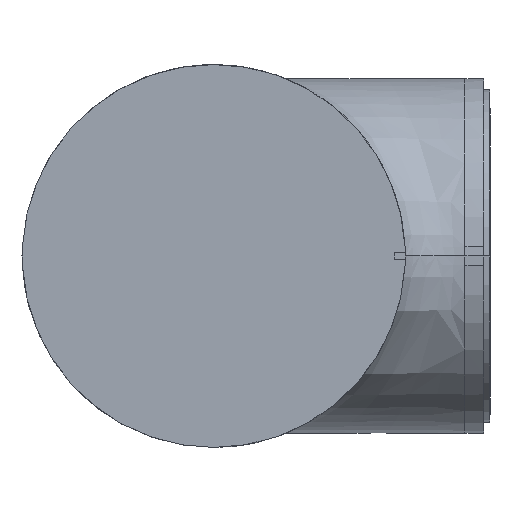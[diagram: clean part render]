
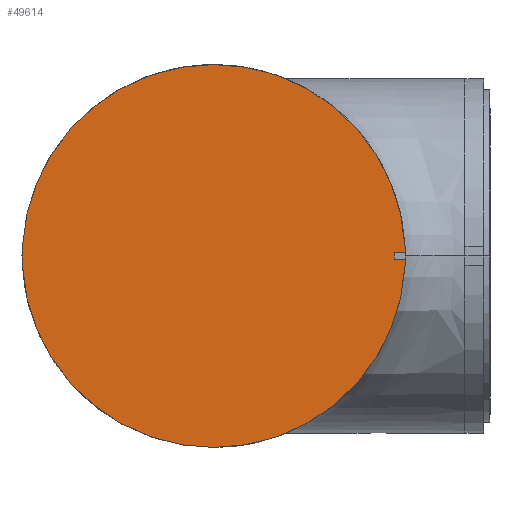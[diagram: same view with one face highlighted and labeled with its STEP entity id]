
A CAD part, left-side view. The second image highlights one B-rep face of the part: STEP entity #49614.
In plain terms, the highlighted planar face has unit normal (-1, 0, 0).
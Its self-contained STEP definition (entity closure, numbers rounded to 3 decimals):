
#40 = AXIS2_PLACEMENT_3D ( 'NONE', #52307, #5696, #39732 ) ;
#142 = CARTESIAN_POINT ( 'NONE',  ( 401., 121.016, 1019.308 ) ) ;
#281 = DIRECTION ( 'NONE',  ( 1., 0., 0. ) ) ;
#1000 = AXIS2_PLACEMENT_3D ( 'NONE', #42832, #12993, #16050 ) ;
#1996 = DIRECTION ( 'NONE',  ( 0., -0.052, 0.999 ) ) ;
#2689 = CIRCLE ( 'NONE', #22296, 61. ) ;
#4376 = EDGE_CURVE ( 'NONE', #53011, #49668, #45885, .T. ) ;
#4714 = ORIENTED_EDGE ( 'NONE', *, *, #11195, .F. ) ;
#5334 = AXIS2_PLACEMENT_3D ( 'NONE', #36969, #11323, #15773 ) ;
#5696 = DIRECTION ( 'NONE',  ( -1., 0., 0. ) ) ;
#5845 = ORIENTED_EDGE ( 'NONE', *, *, #20890, .F. ) ;
#6193 = LINE ( 'NONE', #31847, #43682 ) ;
#6566 = LINE ( 'NONE', #7370, #13383 ) ;
#6661 = VERTEX_POINT ( 'NONE', #40063 ) ;
#7370 = CARTESIAN_POINT ( 'NONE',  ( 401., 8.1, 1023.5 ) ) ;
#8954 = DIRECTION ( 'NONE',  ( 0., 0., 1. ) ) ;
#8957 = LINE ( 'NONE', #9789, #18030 ) ;
#9066 = CARTESIAN_POINT ( 'NONE',  ( 401., 121.184, 1022.5 ) ) ;
#9482 = ORIENTED_EDGE ( 'NONE', *, *, #51067, .F. ) ;
#9622 = VERTEX_POINT ( 'NONE', #9066 ) ;
#9789 = CARTESIAN_POINT ( 'NONE',  ( 401., -0.984, 1022.5 ) ) ;
#11133 = EDGE_CURVE ( 'NONE', #42020, #15889, #42868, .T. ) ;
#11195 = EDGE_CURVE ( 'NONE', #49668, #42020, #33063, .T. ) ;
#11299 = ORIENTED_EDGE ( 'NONE', *, *, #44054, .F. ) ;
#11323 = DIRECTION ( 'NONE',  ( -1., 0., 0. ) ) ;
#12452 = CIRCLE ( 'NONE', #5334, 57.5 ) ;
#12993 = DIRECTION ( 'NONE',  ( 1., 0., 0. ) ) ;
#13383 = VECTOR ( 'NONE', #23579, 1000. ) ;
#14889 = FACE_OUTER_BOUND ( 'NONE', #47224, .T. ) ;
#15320 = CARTESIAN_POINT ( 'NONE',  ( 401., -0.931, 1023.5 ) ) ;
#15773 = DIRECTION ( 'NONE',  ( 0., 1., 0. ) ) ;
#15889 = VERTEX_POINT ( 'NONE', #40914 ) ;
#16050 = DIRECTION ( 'NONE',  ( 0., 0., 1. ) ) ;
#17161 = DIRECTION ( 'NONE',  ( 0., 0.052, -0.999 ) ) ;
#17423 = CARTESIAN_POINT ( 'NONE',  ( 401., -0.816, 1025.692 ) ) ;
#18030 = VECTOR ( 'NONE', #51934, 1000. ) ;
#18718 = ORIENTED_EDGE ( 'NONE', *, *, #42489, .F. ) ;
#20684 = CIRCLE ( 'NONE', #21576, 61. ) ;
#20890 = EDGE_CURVE ( 'NONE', #27307, #51520, #8957, .T. ) ;
#21576 = AXIS2_PLACEMENT_3D ( 'NONE', #46026, #33449, #50490 ) ;
#22296 = AXIS2_PLACEMENT_3D ( 'NONE', #38245, #281, #8954 ) ;
#22906 = ORIENTED_EDGE ( 'NONE', *, *, #47825, .F. ) ;
#23110 = VERTEX_POINT ( 'NONE', #36608 ) ;
#23416 = ORIENTED_EDGE ( 'NONE', *, *, #27242, .T. ) ;
#23579 = DIRECTION ( 'NONE',  ( 0., 1., 0. ) ) ;
#23915 = VERTEX_POINT ( 'NONE', #29891 ) ;
#24244 = EDGE_CURVE ( 'NONE', #15889, #23110, #20684, .T. ) ;
#24465 = VECTOR ( 'NONE', #34151, 1000. ) ;
#27242 = EDGE_CURVE ( 'NONE', #53011, #23915, #12452, .T. ) ;
#27307 = VERTEX_POINT ( 'NONE', #17423 ) ;
#27725 = VECTOR ( 'NONE', #17161, 1000. ) ;
#28288 = CARTESIAN_POINT ( 'NONE',  ( 401., 2.609, 1021.5 ) ) ;
#28566 = VECTOR ( 'NONE', #48137, 1000. ) ;
#29837 = ORIENTED_EDGE ( 'NONE', *, *, #24244, .F. ) ;
#29891 = CARTESIAN_POINT ( 'NONE',  ( 401., 2.609, 1023.5 ) ) ;
#31847 = CARTESIAN_POINT ( 'NONE',  ( 401., 121.016, 1025.692 ) ) ;
#33063 = LINE ( 'NONE', #50102, #27725 ) ;
#33449 = DIRECTION ( 'NONE',  ( 1., 0., 0. ) ) ;
#34151 = DIRECTION ( 'NONE',  ( 0., -1., 0. ) ) ;
#36608 = CARTESIAN_POINT ( 'NONE',  ( 401., 121.016, 1019.308 ) ) ;
#36969 = CARTESIAN_POINT ( 'NONE',  ( 401., 60.1, 1022.5 ) ) ;
#38245 = CARTESIAN_POINT ( 'NONE',  ( 401., 60.1, 1022.5 ) ) ;
#38630 = CARTESIAN_POINT ( 'NONE',  ( 401., -0.816, 1019.308 ) ) ;
#39492 = LINE ( 'NONE', #142, #28566 ) ;
#39732 = DIRECTION ( 'NONE',  ( 0., 0., 1. ) ) ;
#40063 = CARTESIAN_POINT ( 'NONE',  ( 401., 121.016, 1025.692 ) ) ;
#40556 = CARTESIAN_POINT ( 'NONE',  ( 401., -0.931, 1021.5 ) ) ;
#40914 = CARTESIAN_POINT ( 'NONE',  ( 401., 60.1, 961.5 ) ) ;
#41701 = CARTESIAN_POINT ( 'NONE',  ( 401., 8.1, 1021.5 ) ) ;
#42020 = VERTEX_POINT ( 'NONE', #38630 ) ;
#42489 = EDGE_CURVE ( 'NONE', #6661, #27307, #2689, .T. ) ;
#42832 = CARTESIAN_POINT ( 'NONE',  ( 401., 60.1, 1022.5 ) ) ;
#42868 = CIRCLE ( 'NONE', #1000, 61. ) ;
#43648 = PLANE ( 'NONE',  #40 ) ;
#43682 = VECTOR ( 'NONE', #1996, 1000. ) ;
#44054 = EDGE_CURVE ( 'NONE', #51520, #23915, #6566, .T. ) ;
#45885 = LINE ( 'NONE', #41701, #24465 ) ;
#46026 = CARTESIAN_POINT ( 'NONE',  ( 401., 60.1, 1022.5 ) ) ;
#47224 = EDGE_LOOP ( 'NONE', ( #54493, #23416, #11299, #5845, #18718, #9482, #22906, #29837, #51356, #4714 ) ) ;
#47825 = EDGE_CURVE ( 'NONE', #23110, #9622, #39492, .T. ) ;
#48137 = DIRECTION ( 'NONE',  ( 0., 0.052, 0.999 ) ) ;
#49614 = ADVANCED_FACE ( 'NONE', ( #14889 ), #43648, .T. ) ;
#49668 = VERTEX_POINT ( 'NONE', #40556 ) ;
#50102 = CARTESIAN_POINT ( 'NONE',  ( 401., -0.984, 1022.5 ) ) ;
#50490 = DIRECTION ( 'NONE',  ( 0., 0., 1. ) ) ;
#51067 = EDGE_CURVE ( 'NONE', #9622, #6661, #6193, .T. ) ;
#51356 = ORIENTED_EDGE ( 'NONE', *, *, #11133, .F. ) ;
#51520 = VERTEX_POINT ( 'NONE', #15320 ) ;
#51934 = DIRECTION ( 'NONE',  ( 0., -0.052, -0.999 ) ) ;
#52307 = CARTESIAN_POINT ( 'NONE',  ( 401., 60.1, 1022.5 ) ) ;
#53011 = VERTEX_POINT ( 'NONE', #28288 ) ;
#54493 = ORIENTED_EDGE ( 'NONE', *, *, #4376, .F. ) ;
